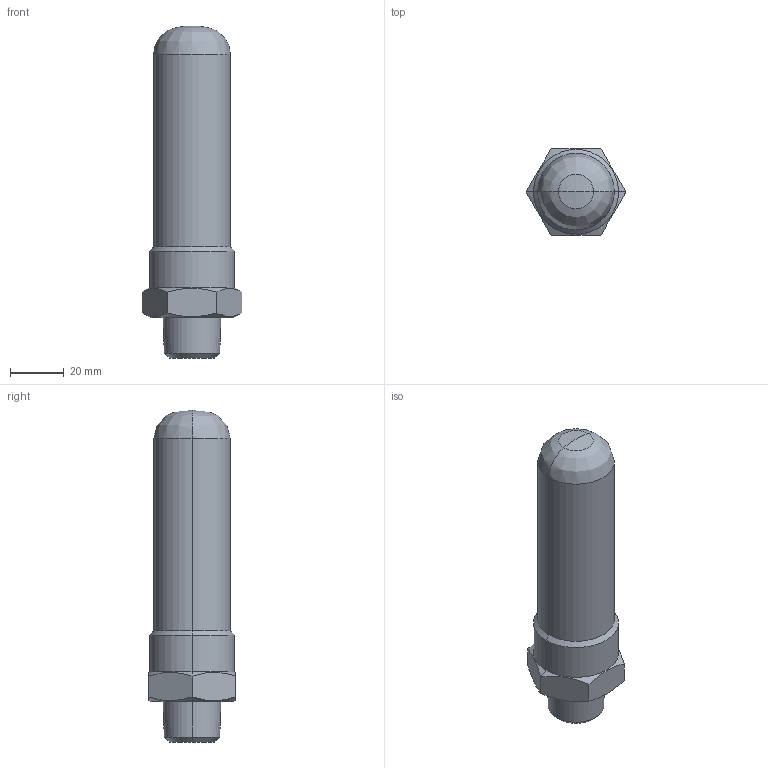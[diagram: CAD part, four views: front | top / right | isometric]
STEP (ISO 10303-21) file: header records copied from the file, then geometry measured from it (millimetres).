
FILE_DESCRIPTION( (''), '2;1');
FILE_NAME ('PC1027.11244.WP-1　15A_29949.stp','2025-07-25T15:03:17',(''),(''),'spGate 19.8.4 (****-****-****-****)','','');
FILE_SCHEMA (('AUTOMOTIVE_DESIGN'));
Length unit declared in the file: millimetre
Bounding box: 36.95 x 32 x 123 mm (x, y, z)
Volume: 76003.7 mm3; surface area: 11972.8 mm2
Topology: 1 solids, 1 shells, 26 faces, 56 edges, 31 vertices
Faces by surface type: bspline 12, plane 8, cylinder 4, sphere 2
Entity records: 1333 total; most frequent: CARTESIAN_POINT 411, ORIENTED_EDGE 108, COLOUR_RGB 81, PRESENTATION_STYLE_ASSIGNMENT 81, STYLED_ITEM 81, DIRECTION 70, EDGE_CURVE 54, DRAUGHTING_PRE_DEFINED_CURVE_FONT 54
